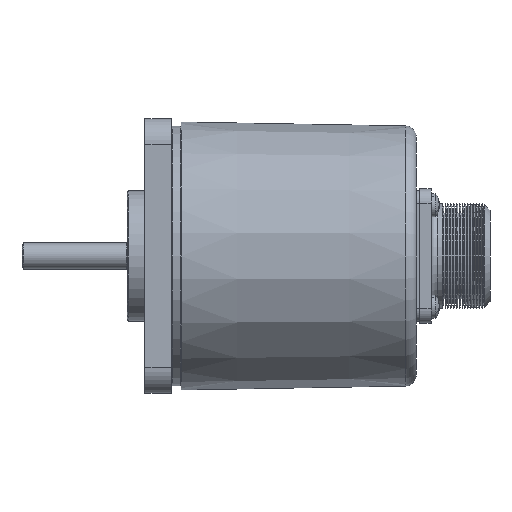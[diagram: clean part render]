
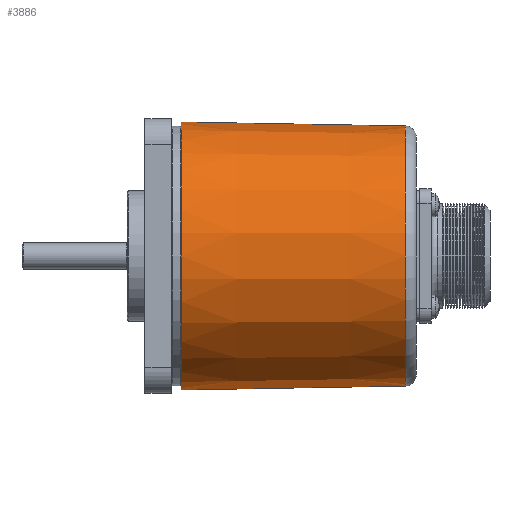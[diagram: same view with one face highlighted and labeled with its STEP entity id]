
A CAD part, front view. The second image highlights one B-rep face of the part: STEP entity #3886.
In plain terms, the highlighted conical face has half-angle 1 degrees and reference radius 32.512 mm.
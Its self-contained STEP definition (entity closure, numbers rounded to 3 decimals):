
#402 = DIRECTION ( 'NONE',  ( 1., 0., 0. ) ) ;
#1269 = CARTESIAN_POINT ( 'NONE',  ( 67.578, 0., 0. ) ) ;
#1305 = CIRCLE ( 'NONE', #2220, 32.512 ) ;
#1473 = DIRECTION ( 'NONE',  ( -1., 0., 0.017 ) ) ;
#1524 = EDGE_CURVE ( 'NONE', #10392, #2717, #1305, .T. ) ;
#1675 = DIRECTION ( 'NONE',  ( -1., 0., -0.017 ) ) ;
#1824 = CARTESIAN_POINT ( 'NONE',  ( 13.2, 0., -32.512 ) ) ;
#2164 = EDGE_CURVE ( 'NONE', #10320, #8919, #9030, .T. ) ;
#2179 = DIRECTION ( 'NONE',  ( 0., 0., -1. ) ) ;
#2220 = AXIS2_PLACEMENT_3D ( 'NONE', #5914, #402, #6827 ) ;
#2405 = VECTOR ( 'NONE', #1675, 1000. ) ;
#2717 = VERTEX_POINT ( 'NONE', #1824 ) ;
#3886 = ADVANCED_FACE ( 'NONE', ( #7081 ), #4065, .T. ) ;
#4065 = CONICAL_SURFACE ( 'NONE', #5003, 32.512, 0.017 ) ;
#4461 = CARTESIAN_POINT ( 'NONE',  ( 13.2, 0., -32.512 ) ) ;
#4558 = CARTESIAN_POINT ( 'NONE',  ( 13.2, 0., 32.512 ) ) ;
#4790 = DIRECTION ( 'NONE',  ( 0., 0., 1. ) ) ;
#5003 = AXIS2_PLACEMENT_3D ( 'NONE', #9375, #8433, #4790 ) ;
#5138 = ORIENTED_EDGE ( 'NONE', *, *, #1524, .T. ) ;
#5914 = CARTESIAN_POINT ( 'NONE',  ( 13.2, 0., 0. ) ) ;
#6077 = CARTESIAN_POINT ( 'NONE',  ( 13.2, 0., 32.512 ) ) ;
#6564 = EDGE_CURVE ( 'NONE', #8919, #10392, #11408, .T. ) ;
#6827 = DIRECTION ( 'NONE',  ( 0., 0., 1. ) ) ;
#6840 = VECTOR ( 'NONE', #1473, 1000. ) ;
#7081 = FACE_OUTER_BOUND ( 'NONE', #8355, .T. ) ;
#7131 = ORIENTED_EDGE ( 'NONE', *, *, #2164, .T. ) ;
#7627 = ORIENTED_EDGE ( 'NONE', *, *, #10953, .F. ) ;
#7693 = DIRECTION ( 'NONE',  ( -1., 0., 0. ) ) ;
#8030 = CARTESIAN_POINT ( 'NONE',  ( 67.578, 0., 31.563 ) ) ;
#8175 = ORIENTED_EDGE ( 'NONE', *, *, #6564, .T. ) ;
#8355 = EDGE_LOOP ( 'NONE', ( #7627, #7131, #8175, #5138 ) ) ;
#8433 = DIRECTION ( 'NONE',  ( -1., 0., 0. ) ) ;
#8919 = VERTEX_POINT ( 'NONE', #8030 ) ;
#9030 = CIRCLE ( 'NONE', #10997, 31.563 ) ;
#9375 = CARTESIAN_POINT ( 'NONE',  ( 13.2, 0., 0. ) ) ;
#9445 = LINE ( 'NONE', #4461, #2405 ) ;
#10320 = VERTEX_POINT ( 'NONE', #11760 ) ;
#10392 = VERTEX_POINT ( 'NONE', #4558 ) ;
#10953 = EDGE_CURVE ( 'NONE', #10320, #2717, #9445, .T. ) ;
#10997 = AXIS2_PLACEMENT_3D ( 'NONE', #1269, #7693, #2179 ) ;
#11408 = LINE ( 'NONE', #6077, #6840 ) ;
#11760 = CARTESIAN_POINT ( 'NONE',  ( 67.578, 0., -31.563 ) ) ;
